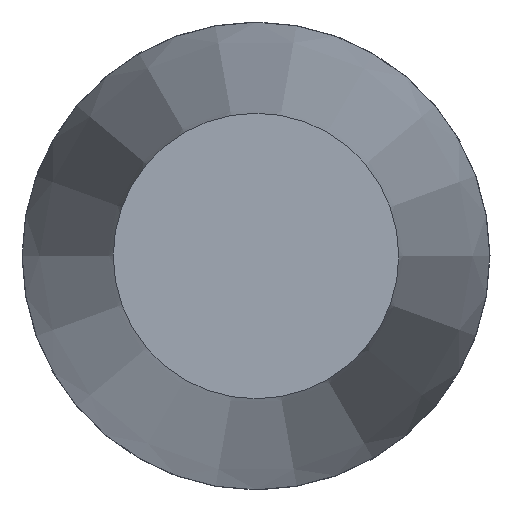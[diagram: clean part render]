
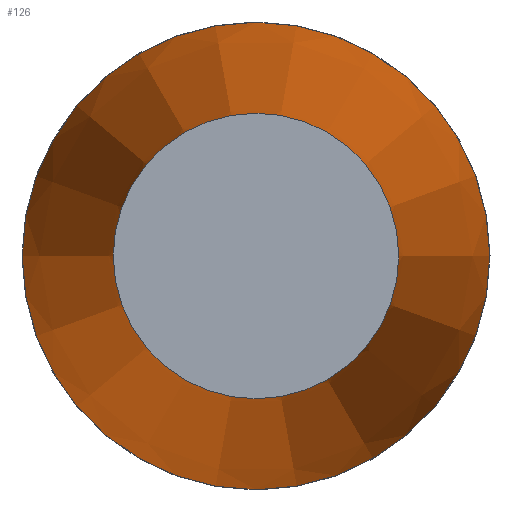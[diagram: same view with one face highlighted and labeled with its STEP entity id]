
A CAD part, left-side view. The second image highlights one B-rep face of the part: STEP entity #126.
In plain terms, the highlighted conical face has half-angle 6.875 degrees and reference radius 164.401 mm.
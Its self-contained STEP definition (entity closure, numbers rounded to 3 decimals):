
#115=CONICAL_SURFACE('',#281,164.402,6.875);
#126=ADVANCED_FACE('',(#151,#152),#115,.T.);
#151=FACE_BOUND('',#178,.T.);
#152=FACE_BOUND('',#179,.T.);
#178=EDGE_LOOP('',(#206));
#179=EDGE_LOOP('',(#207));
#206=ORIENTED_EDGE('',*,*,#241,.T.);
#207=ORIENTED_EDGE('',*,*,#242,.T.);
#227=VERTEX_POINT('',#380);
#228=VERTEX_POINT('',#382);
#241=EDGE_CURVE('',#227,#227,#255,.T.);
#242=EDGE_CURVE('',#228,#228,#256,.T.);
#255=CIRCLE('',#279,91.631);
#256=CIRCLE('',#280,164.219);
#279=AXIS2_PLACEMENT_3D('',#379,#329,#330);
#280=AXIS2_PLACEMENT_3D('',#381,#331,#332);
#281=AXIS2_PLACEMENT_3D('',#383,#333,#334);
#329=DIRECTION('',(1.,0.,0.));
#330=DIRECTION('',(0.,-1.,0.));
#331=DIRECTION('',(-1.,0.,0.));
#332=DIRECTION('',(0.,1.,0.));
#333=DIRECTION('',(1.,0.,0.));
#334=DIRECTION('',(0.,-1.,0.));
#379=CARTESIAN_POINT('',(8124.001,-6.577,12.282));
#380=CARTESIAN_POINT('',(8124.001,-98.207,12.326));
#381=CARTESIAN_POINT('',(8726.04,-6.577,12.282));
#382=CARTESIAN_POINT('',(8726.04,157.642,12.203));
#383=CARTESIAN_POINT('',(8727.554,-6.577,12.282));
